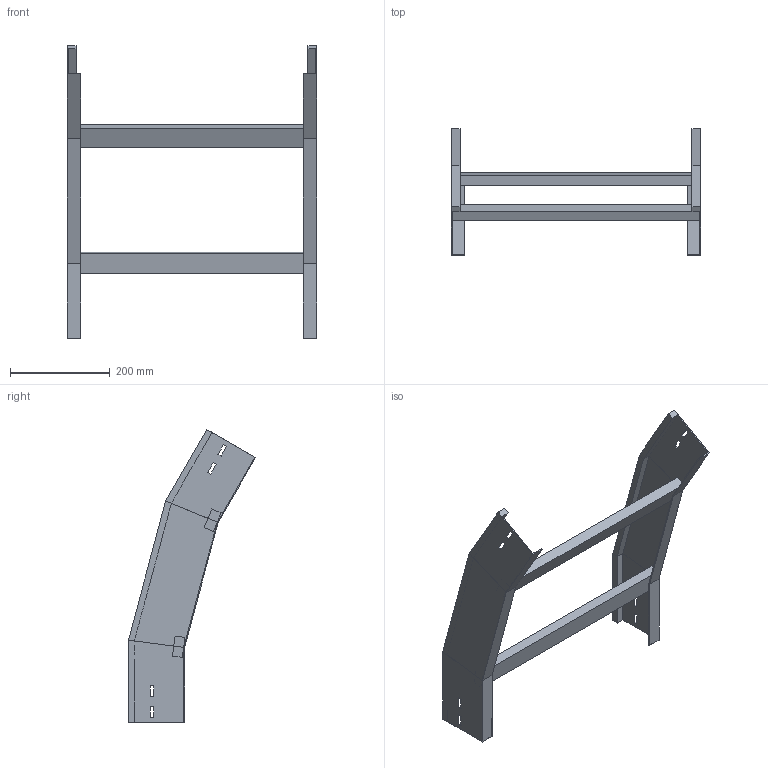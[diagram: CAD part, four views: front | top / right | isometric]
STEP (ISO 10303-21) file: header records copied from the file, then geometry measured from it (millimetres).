
FILE_DESCRIPTION (( 'STEP AP214' ), '1' );
FILE_NAME ('35B5J500.step', '2025-02-21T14:47:27', ( '' ), ( '' ), 'SwSTEP 2.0', 'SolidWorks 2023', '' );
FILE_SCHEMA (( 'AUTOMOTIVE_DESIGN' ));
Length unit declared in the file: millimetre
Products named in the file (3): 35B5J500; LONGH.DISCESA_30°_H112.5_R500; TRAVERSINO_500
Assembly tree (5 placements, depth 2):
  35B5J500
    LONGH.DISCESA_30°_H112.5_R500  x2
    TRAVERSINO_500  x3
Bounding box: 500 x 254.53 x 586.33 mm (x, y, z)
Volume: 1759840.7 mm3; surface area: 550146.8 mm2
Topology: 5 solids, 5 shells, 102 faces, 244 edges, 152 vertices
Faces by surface type: plane 102
Entity records: 1480 total; most frequent: CARTESIAN_POINT 244, ORIENTED_EDGE 232, DIRECTION 228, EDGE_CURVE 116, VECTOR 116, LINE 116, VERTEX_POINT 72, AXIS2_PLACEMENT_3D 56
